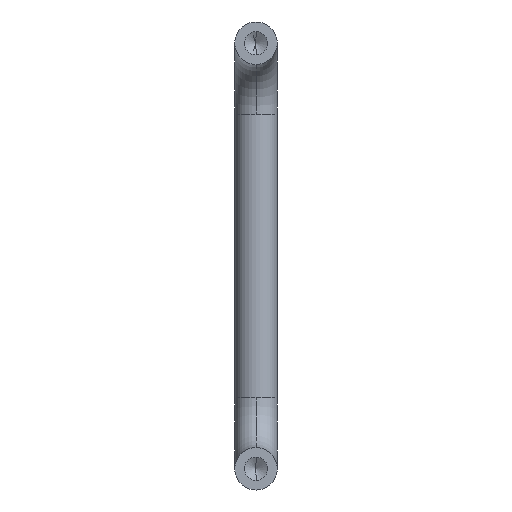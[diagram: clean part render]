
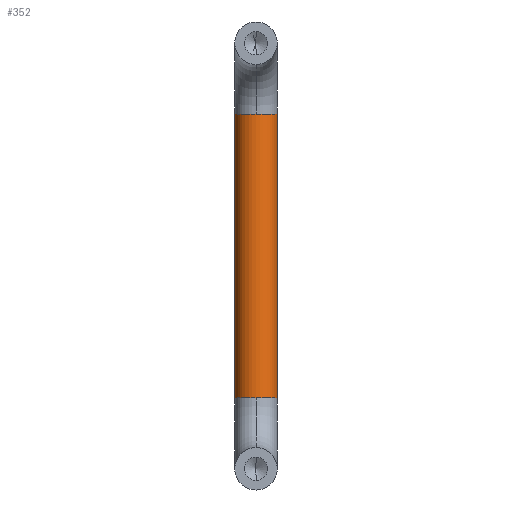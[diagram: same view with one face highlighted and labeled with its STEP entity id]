
A CAD part, front view. The second image highlights one B-rep face of the part: STEP entity #352.
In plain terms, the highlighted cylindrical face has radius 3 mm (diameter 6 mm), a partial arc.
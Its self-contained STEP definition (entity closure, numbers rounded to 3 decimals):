
#22 = EDGE_CURVE ( 'NONE', #602, #428, #361, .T. ) ;
#29 = CARTESIAN_POINT ( 'NONE',  ( 0., 23., -10. ) ) ;
#59 = EDGE_CURVE ( 'NONE', #169, #271, #490, .T. ) ;
#62 = LINE ( 'NONE', #251, #368 ) ;
#71 = DIRECTION ( 'NONE',  ( 0., 0., -1. ) ) ;
#83 = DIRECTION ( 'NONE',  ( 0., 0., -1. ) ) ;
#84 = ORIENTED_EDGE ( 'NONE', *, *, #543, .T. ) ;
#94 = CARTESIAN_POINT ( 'NONE',  ( -3., 23., -50. ) ) ;
#97 = CARTESIAN_POINT ( 'NONE',  ( 0., 23., -10. ) ) ;
#104 = DIRECTION ( 'NONE',  ( 0., 0., -1. ) ) ;
#106 = CARTESIAN_POINT ( 'NONE',  ( 0., 20., -50. ) ) ;
#117 = DIRECTION ( 'NONE',  ( 0., 1., 0. ) ) ;
#124 = ORIENTED_EDGE ( 'NONE', *, *, #157, .T. ) ;
#127 = VERTEX_POINT ( 'NONE', #590 ) ;
#157 = EDGE_CURVE ( 'NONE', #428, #271, #62, .T. ) ;
#169 = VERTEX_POINT ( 'NONE', #106 ) ;
#195 = ORIENTED_EDGE ( 'NONE', *, *, #372, .F. ) ;
#201 = VERTEX_POINT ( 'NONE', #209 ) ;
#209 = CARTESIAN_POINT ( 'NONE',  ( 3., 23., -50. ) ) ;
#220 = AXIS2_PLACEMENT_3D ( 'NONE', #309, #415, #117 ) ;
#236 = EDGE_CURVE ( 'NONE', #127, #201, #516, .T. ) ;
#243 = AXIS2_PLACEMENT_3D ( 'NONE', #351, #395, #246 ) ;
#246 = DIRECTION ( 'NONE',  ( 0., 1., 0. ) ) ;
#250 = DIRECTION ( 'NONE',  ( -1., 0., 0. ) ) ;
#251 = CARTESIAN_POINT ( 'NONE',  ( -3., 23., -10. ) ) ;
#260 = CARTESIAN_POINT ( 'NONE',  ( 0., 23., -10. ) ) ;
#263 = AXIS2_PLACEMENT_3D ( 'NONE', #97, #104, #482 ) ;
#271 = VERTEX_POINT ( 'NONE', #94 ) ;
#276 = CIRCLE ( 'NONE', #291, 3. ) ;
#291 = AXIS2_PLACEMENT_3D ( 'NONE', #29, #83, #328 ) ;
#292 = CARTESIAN_POINT ( 'NONE',  ( 0., 20., -10. ) ) ;
#309 = CARTESIAN_POINT ( 'NONE',  ( 0., 23., -50. ) ) ;
#328 = DIRECTION ( 'NONE',  ( 0., 1., 0. ) ) ;
#351 = CARTESIAN_POINT ( 'NONE',  ( 0., 23., -50. ) ) ;
#352 = ADVANCED_FACE ( 'NONE', ( #407 ), #547, .T. ) ;
#360 = ORIENTED_EDGE ( 'NONE', *, *, #236, .F. ) ;
#361 = CIRCLE ( 'NONE', #263, 3. ) ;
#368 = VECTOR ( 'NONE', #406, 1000. ) ;
#372 = EDGE_CURVE ( 'NONE', #201, #169, #422, .T. ) ;
#374 = CARTESIAN_POINT ( 'NONE',  ( 3., 23., -10. ) ) ;
#380 = VECTOR ( 'NONE', #71, 1000. ) ;
#395 = DIRECTION ( 'NONE',  ( 0., 0., -1. ) ) ;
#406 = DIRECTION ( 'NONE',  ( 0., 0., -1. ) ) ;
#407 = FACE_OUTER_BOUND ( 'NONE', #463, .T. ) ;
#410 = CARTESIAN_POINT ( 'NONE',  ( -3., 23., -10. ) ) ;
#415 = DIRECTION ( 'NONE',  ( 0., 0., -1. ) ) ;
#422 = CIRCLE ( 'NONE', #220, 3. ) ;
#428 = VERTEX_POINT ( 'NONE', #410 ) ;
#463 = EDGE_LOOP ( 'NONE', ( #360, #84, #607, #124, #487, #195 ) ) ;
#482 = DIRECTION ( 'NONE',  ( 0., 1., 0. ) ) ;
#487 = ORIENTED_EDGE ( 'NONE', *, *, #59, .F. ) ;
#490 = CIRCLE ( 'NONE', #243, 3. ) ;
#506 = DIRECTION ( 'NONE',  ( 0., 0., -1. ) ) ;
#516 = LINE ( 'NONE', #374, #380 ) ;
#543 = EDGE_CURVE ( 'NONE', #127, #602, #276, .T. ) ;
#547 = CYLINDRICAL_SURFACE ( 'NONE', #580, 3. ) ;
#580 = AXIS2_PLACEMENT_3D ( 'NONE', #260, #506, #250 ) ;
#590 = CARTESIAN_POINT ( 'NONE',  ( 3., 23., -10. ) ) ;
#602 = VERTEX_POINT ( 'NONE', #292 ) ;
#607 = ORIENTED_EDGE ( 'NONE', *, *, #22, .T. ) ;
